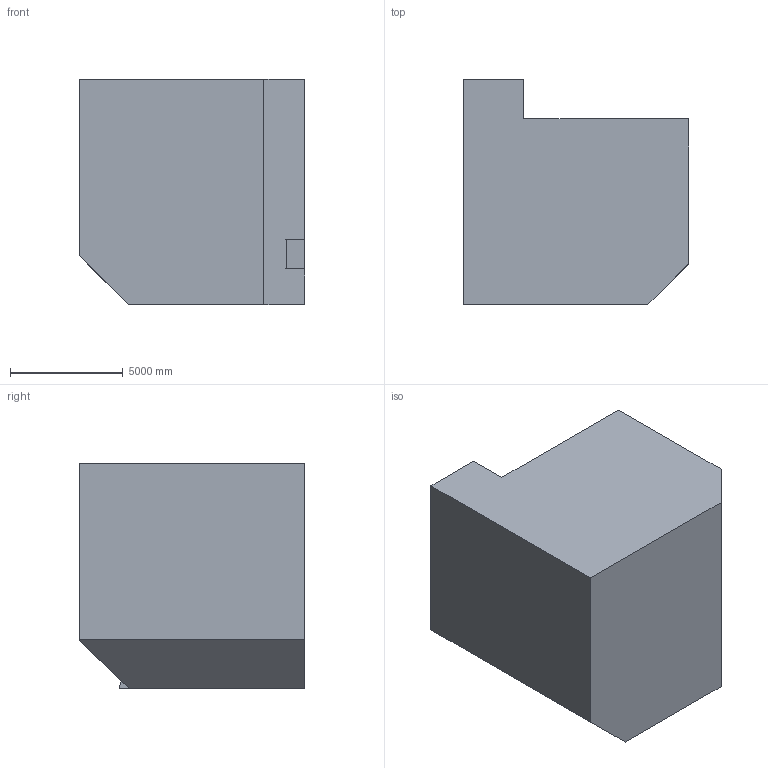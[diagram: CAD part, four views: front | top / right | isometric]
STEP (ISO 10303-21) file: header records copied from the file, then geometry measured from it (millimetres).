
FILE_DESCRIPTION (( 'STEP AP203' ), '1' );
FILE_NAME ('490.STEP', '2022-08-04T14:27:29', ( 'user' ), ( '' ), 'SwSTEP 2.0', 'SolidWorks 2021', '' );
FILE_SCHEMA (( 'CONFIG_CONTROL_DESIGN' ));
Length unit declared in the file: centimetre
Products named in the file (1): 490
Bounding box: 10000 x 10000 x 10000 mm (x, y, z)
Volume: 751727753238.5 mm3; surface area: 593742412.9 mm2
Topology: 1 solids, 1 shells, 18 faces, 48 edges, 32 vertices
Faces by surface type: plane 18
Entity records: 629 total; most frequent: CARTESIAN_POINT 99, ORIENTED_EDGE 96, DIRECTION 86, EDGE_CURVE 48, VECTOR 48, LINE 48, VERTEX_POINT 32, AXIS2_PLACEMENT_3D 19
